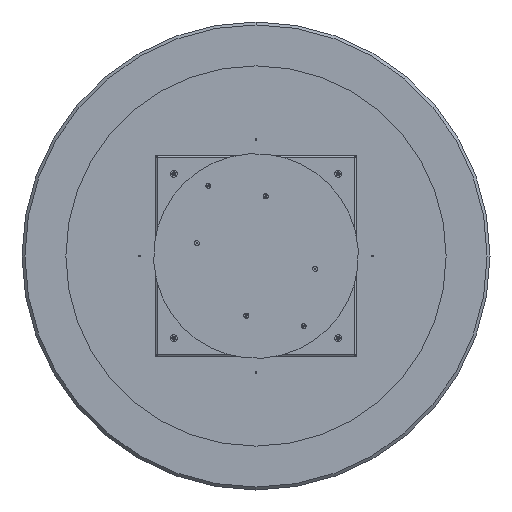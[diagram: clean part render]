
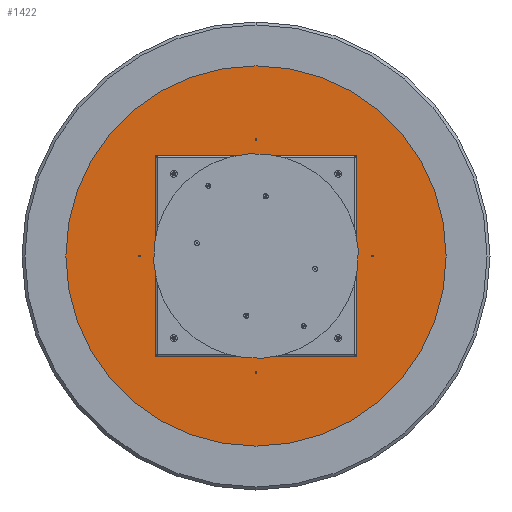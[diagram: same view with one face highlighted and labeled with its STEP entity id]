
A CAD part, front view. The second image highlights one B-rep face of the part: STEP entity #1422.
In plain terms, the highlighted planar face has unit normal (0, -1, 0).
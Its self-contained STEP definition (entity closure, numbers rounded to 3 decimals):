
#157 = VERTEX_POINT ( 'NONE', #8326 ) ;
#262 = EDGE_CURVE ( 'NONE', #157, #17002, #15562, .T. ) ;
#356 = ORIENTED_EDGE ( 'NONE', *, *, #3558, .F. ) ;
#478 = DIRECTION ( 'NONE',  ( 0., -1., 0. ) ) ;
#717 = FACE_BOUND ( 'NONE', #3937, .T. ) ;
#848 = DIRECTION ( 'NONE',  ( 0., 1., 0. ) ) ;
#898 = CIRCLE ( 'NONE', #14678, 3.4 ) ;
#1222 = DIRECTION ( 'NONE',  ( 0., 0., 1. ) ) ;
#1422 = ADVANCED_FACE ( 'NONE', ( #15878, #2471, #717, #6155, #11831, #10102 ), #4319, .F. ) ;
#1453 = DIRECTION ( 'NONE',  ( 0., 0., -1. ) ) ;
#1474 = CARTESIAN_POINT ( 'NONE',  ( 0., 0., -397.5 ) ) ;
#1592 = ORIENTED_EDGE ( 'NONE', *, *, #15955, .F. ) ;
#1828 = CARTESIAN_POINT ( 'NONE',  ( 0., 0., 650. ) ) ;
#1844 = EDGE_LOOP ( 'NONE', ( #18632, #356 ) ) ;
#1916 = CARTESIAN_POINT ( 'NONE',  ( -397.5, 0., 3.4 ) ) ;
#1923 = ORIENTED_EDGE ( 'NONE', *, *, #6185, .F. ) ;
#2048 = DIRECTION ( 'NONE',  ( 0., 0., -1. ) ) ;
#2465 = DIRECTION ( 'NONE',  ( 0., 0., -1. ) ) ;
#2471 = FACE_BOUND ( 'NONE', #13359, .T. ) ;
#2749 = DIRECTION ( 'NONE',  ( 0., -1., 0. ) ) ;
#2774 = ORIENTED_EDGE ( 'NONE', *, *, #15516, .F. ) ;
#2834 = CARTESIAN_POINT ( 'NONE',  ( 0., 0., 0. ) ) ;
#3029 = CARTESIAN_POINT ( 'NONE',  ( 0., 0., 0. ) ) ;
#3165 = CARTESIAN_POINT ( 'NONE',  ( 0., 0., -400.9 ) ) ;
#3417 = EDGE_CURVE ( 'NONE', #17100, #6025, #5423, .T. ) ;
#3558 = EDGE_CURVE ( 'NONE', #15554, #6819, #13694, .T. ) ;
#3784 = DIRECTION ( 'NONE',  ( 0., -1., 0. ) ) ;
#3937 = EDGE_LOOP ( 'NONE', ( #4653, #12387 ) ) ;
#4196 = CARTESIAN_POINT ( 'NONE',  ( 397.5, 0., 0. ) ) ;
#4319 = PLANE ( 'NONE',  #4955 ) ;
#4494 = CARTESIAN_POINT ( 'NONE',  ( 0., 0., 397.5 ) ) ;
#4608 = CARTESIAN_POINT ( 'NONE',  ( 0., 0., -650. ) ) ;
#4653 = ORIENTED_EDGE ( 'NONE', *, *, #20947, .F. ) ;
#4955 = AXIS2_PLACEMENT_3D ( 'NONE', #2834, #848, #19345 ) ;
#5065 = CIRCLE ( 'NONE', #14891, 650. ) ;
#5423 = CIRCLE ( 'NONE', #21169, 3.4 ) ;
#5463 = ORIENTED_EDGE ( 'NONE', *, *, #12009, .F. ) ;
#5675 = CIRCLE ( 'NONE', #8814, 3.4 ) ;
#5968 = EDGE_LOOP ( 'NONE', ( #12815, #22193 ) ) ;
#6025 = VERTEX_POINT ( 'NONE', #19467 ) ;
#6155 = FACE_BOUND ( 'NONE', #5968, .T. ) ;
#6185 = EDGE_CURVE ( 'NONE', #15022, #9747, #5065, .T. ) ;
#6417 = DIRECTION ( 'NONE',  ( 0., 0., -1. ) ) ;
#6446 = DIRECTION ( 'NONE',  ( 0., -1., 0. ) ) ;
#6763 = CARTESIAN_POINT ( 'NONE',  ( 0., 0., 0. ) ) ;
#6819 = VERTEX_POINT ( 'NONE', #3165 ) ;
#7706 = DIRECTION ( 'NONE',  ( 0., 0., -1. ) ) ;
#7885 = AXIS2_PLACEMENT_3D ( 'NONE', #22816, #11731, #6417 ) ;
#8261 = ORIENTED_EDGE ( 'NONE', *, *, #17283, .F. ) ;
#8326 = CARTESIAN_POINT ( 'NONE',  ( 0., 0., 6.3 ) ) ;
#8531 = DIRECTION ( 'NONE',  ( 0., 0., -1. ) ) ;
#8619 = AXIS2_PLACEMENT_3D ( 'NONE', #1474, #2749, #8531 ) ;
#8814 = AXIS2_PLACEMENT_3D ( 'NONE', #4494, #6446, #21241 ) ;
#9086 = AXIS2_PLACEMENT_3D ( 'NONE', #16846, #10940, #1453 ) ;
#9475 = AXIS2_PLACEMENT_3D ( 'NONE', #22248, #14237, #20161 ) ;
#9747 = VERTEX_POINT ( 'NONE', #1828 ) ;
#9951 = AXIS2_PLACEMENT_3D ( 'NONE', #22709, #12985, #20502 ) ;
#10102 = FACE_OUTER_BOUND ( 'NONE', #18693, .T. ) ;
#10540 = DIRECTION ( 'NONE',  ( 0., 0., -1. ) ) ;
#10723 = CIRCLE ( 'NONE', #9951, 650. ) ;
#10823 = AXIS2_PLACEMENT_3D ( 'NONE', #23728, #23364, #14473 ) ;
#10940 = DIRECTION ( 'NONE',  ( 0., -1., 0. ) ) ;
#11229 = EDGE_CURVE ( 'NONE', #20744, #15588, #898, .T. ) ;
#11731 = DIRECTION ( 'NONE',  ( 0., -1., 0. ) ) ;
#11831 = FACE_BOUND ( 'NONE', #1844, .T. ) ;
#12009 = EDGE_CURVE ( 'NONE', #9747, #15022, #10723, .T. ) ;
#12114 = AXIS2_PLACEMENT_3D ( 'NONE', #16707, #19047, #2048 ) ;
#12387 = ORIENTED_EDGE ( 'NONE', *, *, #3417, .F. ) ;
#12431 = CARTESIAN_POINT ( 'NONE',  ( 0., 0., 400.9 ) ) ;
#12815 = ORIENTED_EDGE ( 'NONE', *, *, #23639, .F. ) ;
#12985 = DIRECTION ( 'NONE',  ( 0., 1., 0. ) ) ;
#13359 = EDGE_LOOP ( 'NONE', ( #8261, #2774 ) ) ;
#13593 = EDGE_LOOP ( 'NONE', ( #1592, #20495 ) ) ;
#13694 = CIRCLE ( 'NONE', #12114, 3.4 ) ;
#13805 = EDGE_CURVE ( 'NONE', #6819, #15554, #21198, .T. ) ;
#14051 = CARTESIAN_POINT ( 'NONE',  ( 0., 0., -394.1 ) ) ;
#14237 = DIRECTION ( 'NONE',  ( 0., -1., 0. ) ) ;
#14473 = DIRECTION ( 'NONE',  ( 0., 0., -1. ) ) ;
#14678 = AXIS2_PLACEMENT_3D ( 'NONE', #4196, #478, #2465 ) ;
#14891 = AXIS2_PLACEMENT_3D ( 'NONE', #6763, #21560, #1222 ) ;
#15022 = VERTEX_POINT ( 'NONE', #4608 ) ;
#15516 = EDGE_CURVE ( 'NONE', #16152, #22996, #21250, .T. ) ;
#15554 = VERTEX_POINT ( 'NONE', #14051 ) ;
#15562 = CIRCLE ( 'NONE', #23430, 6.3 ) ;
#15588 = VERTEX_POINT ( 'NONE', #17747 ) ;
#15878 = FACE_BOUND ( 'NONE', #13593, .T. ) ;
#15924 = CIRCLE ( 'NONE', #10823, 3.4 ) ;
#15955 = EDGE_CURVE ( 'NONE', #17002, #157, #24038, .T. ) ;
#16008 = CARTESIAN_POINT ( 'NONE',  ( -397.5, 0., -3.4 ) ) ;
#16152 = VERTEX_POINT ( 'NONE', #1916 ) ;
#16707 = CARTESIAN_POINT ( 'NONE',  ( 0., 0., -397.5 ) ) ;
#16846 = CARTESIAN_POINT ( 'NONE',  ( -397.5, 0., 0. ) ) ;
#17002 = VERTEX_POINT ( 'NONE', #18486 ) ;
#17100 = VERTEX_POINT ( 'NONE', #12431 ) ;
#17283 = EDGE_CURVE ( 'NONE', #22996, #16152, #22056, .T. ) ;
#17747 = CARTESIAN_POINT ( 'NONE',  ( 397.5, 0., -3.4 ) ) ;
#18486 = CARTESIAN_POINT ( 'NONE',  ( 0., 0., -6.3 ) ) ;
#18632 = ORIENTED_EDGE ( 'NONE', *, *, #13805, .F. ) ;
#18693 = EDGE_LOOP ( 'NONE', ( #1923, #5463 ) ) ;
#18803 = CARTESIAN_POINT ( 'NONE',  ( 0., 0., 397.5 ) ) ;
#19047 = DIRECTION ( 'NONE',  ( 0., -1., 0. ) ) ;
#19345 = DIRECTION ( 'NONE',  ( 0., 0., 1. ) ) ;
#19467 = CARTESIAN_POINT ( 'NONE',  ( 0., 0., 394.1 ) ) ;
#20064 = CARTESIAN_POINT ( 'NONE',  ( 397.5, 0., 3.4 ) ) ;
#20161 = DIRECTION ( 'NONE',  ( 0., 0., -1. ) ) ;
#20495 = ORIENTED_EDGE ( 'NONE', *, *, #262, .F. ) ;
#20502 = DIRECTION ( 'NONE',  ( 0., 0., 1. ) ) ;
#20744 = VERTEX_POINT ( 'NONE', #20064 ) ;
#20947 = EDGE_CURVE ( 'NONE', #6025, #17100, #5675, .T. ) ;
#21169 = AXIS2_PLACEMENT_3D ( 'NONE', #18803, #3784, #7706 ) ;
#21198 = CIRCLE ( 'NONE', #8619, 3.4 ) ;
#21241 = DIRECTION ( 'NONE',  ( 0., 0., -1. ) ) ;
#21250 = CIRCLE ( 'NONE', #7885, 3.4 ) ;
#21560 = DIRECTION ( 'NONE',  ( 0., 1., 0. ) ) ;
#21876 = DIRECTION ( 'NONE',  ( 0., -1., 0. ) ) ;
#22056 = CIRCLE ( 'NONE', #9086, 3.4 ) ;
#22193 = ORIENTED_EDGE ( 'NONE', *, *, #11229, .F. ) ;
#22248 = CARTESIAN_POINT ( 'NONE',  ( 0., 0., 0. ) ) ;
#22709 = CARTESIAN_POINT ( 'NONE',  ( 0., 0., 0. ) ) ;
#22816 = CARTESIAN_POINT ( 'NONE',  ( -397.5, 0., 0. ) ) ;
#22996 = VERTEX_POINT ( 'NONE', #16008 ) ;
#23364 = DIRECTION ( 'NONE',  ( 0., -1., 0. ) ) ;
#23430 = AXIS2_PLACEMENT_3D ( 'NONE', #3029, #21876, #10540 ) ;
#23639 = EDGE_CURVE ( 'NONE', #15588, #20744, #15924, .T. ) ;
#23728 = CARTESIAN_POINT ( 'NONE',  ( 397.5, 0., 0. ) ) ;
#24038 = CIRCLE ( 'NONE', #9475, 6.3 ) ;
